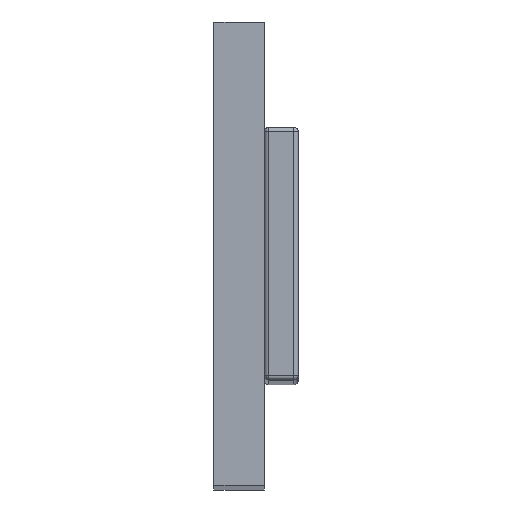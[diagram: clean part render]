
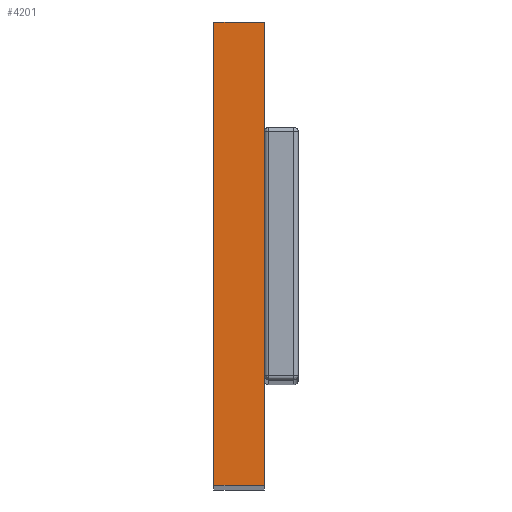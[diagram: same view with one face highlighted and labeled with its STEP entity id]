
A CAD part, top view. The second image highlights one B-rep face of the part: STEP entity #4201.
In plain terms, the highlighted planar face has unit normal (0, 0, 1).
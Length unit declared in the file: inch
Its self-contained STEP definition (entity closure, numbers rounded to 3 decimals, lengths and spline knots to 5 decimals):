
#169 = ORIENTED_EDGE ( 'NONE', *, *, #1593, .F. ) ;
#468 = DIRECTION ( 'NONE',  ( 0., 0., -1. ) ) ;
#756 = CARTESIAN_POINT ( 'NONE',  ( 0., 2.16535, 12.59843 ) ) ;
#1040 = VECTOR ( 'NONE', #3098, 39.37008 ) ;
#1403 = EDGE_CURVE ( 'NONE', #3937, #4173, #3519, .T. ) ;
#1447 = LINE ( 'NONE', #5770, #1040 ) ;
#1576 = DIRECTION ( 'NONE',  ( 0., -1., 0. ) ) ;
#1593 = EDGE_CURVE ( 'NONE', #6000, #4917, #1447, .T. ) ;
#1776 = CARTESIAN_POINT ( 'NONE',  ( 0., 0., 12.59843 ) ) ;
#1813 = LINE ( 'NONE', #3904, #3515 ) ;
#1900 = VECTOR ( 'NONE', #4995, 39.37008 ) ;
#2002 = CARTESIAN_POINT ( 'NONE',  ( 0.23622, 2.16535, 12.59843 ) ) ;
#2011 = FACE_OUTER_BOUND ( 'NONE', #5153, .T. ) ;
#2079 = PLANE ( 'NONE',  #4416 ) ;
#2115 = CARTESIAN_POINT ( 'NONE',  ( 0., 0., 12.59843 ) ) ;
#2709 = DIRECTION ( 'NONE',  ( -1., 0., 0. ) ) ;
#3098 = DIRECTION ( 'NONE',  ( 1., 0., 0. ) ) ;
#3390 = ORIENTED_EDGE ( 'NONE', *, *, #1403, .T. ) ;
#3458 = CARTESIAN_POINT ( 'NONE',  ( 0., 0., 12.59843 ) ) ;
#3515 = VECTOR ( 'NONE', #1576, 39.37008 ) ;
#3519 = LINE ( 'NONE', #1776, #1900 ) ;
#3904 = CARTESIAN_POINT ( 'NONE',  ( 0.23622, 0., 12.59843 ) ) ;
#3937 = VERTEX_POINT ( 'NONE', #3458 ) ;
#4173 = VERTEX_POINT ( 'NONE', #4697 ) ;
#4201 = ADVANCED_FACE ( 'NONE', ( #2011 ), #2079, .F. ) ;
#4416 = AXIS2_PLACEMENT_3D ( 'NONE', #2115, #468, #2709 ) ;
#4697 = CARTESIAN_POINT ( 'NONE',  ( 0.23622, 0., 12.59843 ) ) ;
#4917 = VERTEX_POINT ( 'NONE', #2002 ) ;
#4995 = DIRECTION ( 'NONE',  ( 1., 0., 0. ) ) ;
#5101 = CARTESIAN_POINT ( 'NONE',  ( 0., 0., 12.59843 ) ) ;
#5153 = EDGE_LOOP ( 'NONE', ( #3390, #6467, #169, #6270 ) ) ;
#5372 = VECTOR ( 'NONE', #5716, 39.37008 ) ;
#5716 = DIRECTION ( 'NONE',  ( 0., -1., 0. ) ) ;
#5770 = CARTESIAN_POINT ( 'NONE',  ( 0., 2.16535, 12.59843 ) ) ;
#6000 = VERTEX_POINT ( 'NONE', #756 ) ;
#6149 = EDGE_CURVE ( 'NONE', #6000, #3937, #6787, .T. ) ;
#6270 = ORIENTED_EDGE ( 'NONE', *, *, #6149, .T. ) ;
#6332 = EDGE_CURVE ( 'NONE', #4917, #4173, #1813, .T. ) ;
#6467 = ORIENTED_EDGE ( 'NONE', *, *, #6332, .F. ) ;
#6787 = LINE ( 'NONE', #5101, #5372 ) ;
